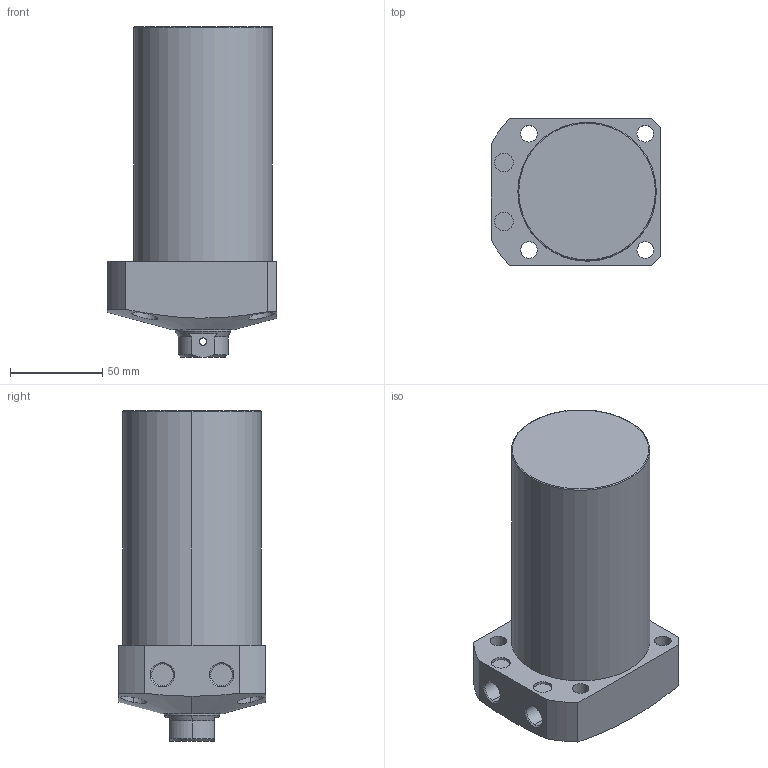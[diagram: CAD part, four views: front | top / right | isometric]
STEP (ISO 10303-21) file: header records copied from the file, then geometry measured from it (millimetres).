
FILE_DESCRIPTION (( 'STEP AP203' ), '1' );
FILE_NAME ('CLL-075CB-090.STEP', '2019-12-24T00:15:31', ( '' ), ( '' ), 'SwSTEP 2.0', 'SolidWorks 2015', '' );
FILE_SCHEMA (( 'CONFIG_CONTROL_DESIGN' ));
Length unit declared in the file: millimetre
Products named in the file (1): CLL-075CB-090
Bounding box: 92 x 80 x 179 mm (x, y, z)
Volume: 779999.3 mm3; surface area: 62336.8 mm2
Topology: 1 solids, 1 shells, 78 faces, 183 edges, 116 vertices
Faces by surface type: cylinder 39, plane 22, cone 15, torus 2
Entity records: 2862 total; most frequent: CARTESIAN_POINT 955, DIRECTION 396, ORIENTED_EDGE 362, EDGE_CURVE 181, AXIS2_PLACEMENT_3D 164, VERTEX_POINT 116, EDGE_LOOP 101, CIRCLE 85
